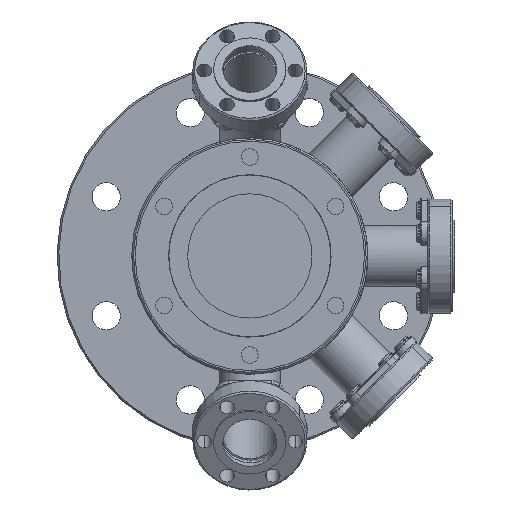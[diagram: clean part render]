
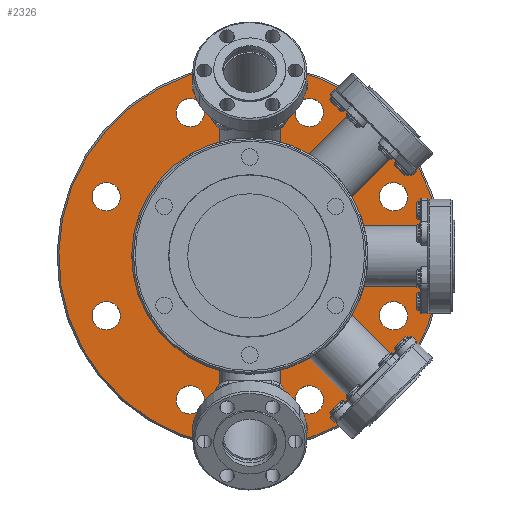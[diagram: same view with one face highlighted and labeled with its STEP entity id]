
A CAD part, top view. The second image highlights one B-rep face of the part: STEP entity #2326.
In plain terms, the highlighted planar face has unit normal (0, 0, 1) as drawn and (1, 0, 0) by its records, which use the part's own axes.
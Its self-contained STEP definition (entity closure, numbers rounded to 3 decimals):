
#2128=AXIS2_PLACEMENT_3D('Circle Axis2P3D',#2126,#2127,$) ;
#2145=AXIS2_PLACEMENT_3D('Circle Axis2P3D',#2143,#2144,$) ;
#2158=AXIS2_PLACEMENT_3D('Plane Axis2P3D',#2155,#2156,#2157) ;
#2162=AXIS2_PLACEMENT_3D('Circle Axis2P3D',#2160,#2161,$) ;
#2171=AXIS2_PLACEMENT_3D('Circle Axis2P3D',#2169,#2170,$) ;
#2180=AXIS2_PLACEMENT_3D('Circle Axis2P3D',#2178,#2179,$) ;
#2189=AXIS2_PLACEMENT_3D('Circle Axis2P3D',#2187,#2188,$) ;
#2202=AXIS2_PLACEMENT_3D('Circle Axis2P3D',#2200,#2201,$) ;
#2211=AXIS2_PLACEMENT_3D('Circle Axis2P3D',#2209,#2210,$) ;
#2220=AXIS2_PLACEMENT_3D('Circle Axis2P3D',#2218,#2219,$) ;
#2229=AXIS2_PLACEMENT_3D('Circle Axis2P3D',#2227,#2228,$) ;
#2238=AXIS2_PLACEMENT_3D('Circle Axis2P3D',#2236,#2237,$) ;
#2247=AXIS2_PLACEMENT_3D('Circle Axis2P3D',#2245,#2246,$) ;
#2256=AXIS2_PLACEMENT_3D('Circle Axis2P3D',#2254,#2255,$) ;
#2265=AXIS2_PLACEMENT_3D('Circle Axis2P3D',#2263,#2264,$) ;
#2274=AXIS2_PLACEMENT_3D('Circle Axis2P3D',#2272,#2273,$) ;
#2283=AXIS2_PLACEMENT_3D('Circle Axis2P3D',#2281,#2282,$) ;
#2292=AXIS2_PLACEMENT_3D('Circle Axis2P3D',#2290,#2291,$) ;
#2301=AXIS2_PLACEMENT_3D('Circle Axis2P3D',#2299,#2300,$) ;
#2310=AXIS2_PLACEMENT_3D('Circle Axis2P3D',#2308,#2309,$) ;
#2319=AXIS2_PLACEMENT_3D('Circle Axis2P3D',#2317,#2318,$) ;
#2107=CARTESIAN_POINT('Vertex',(17.,30.715,16.78)) ;
#2123=CARTESIAN_POINT('Vertex',(17.,-30.715,-16.78)) ;
#2126=CARTESIAN_POINT('Axis2P3D Location',(17.,0.,0.)) ;
#2143=CARTESIAN_POINT('Axis2P3D Location',(17.,0.,0.)) ;
#2155=CARTESIAN_POINT('Axis2P3D Location',(17.,35.,0.)) ;
#2160=CARTESIAN_POINT('Axis2P3D Location',(17.,0.,0.)) ;
#2164=CARTESIAN_POINT('Vertex',(17.,-49.715,-27.159)) ;
#2166=CARTESIAN_POINT('Vertex',(17.,49.715,27.159)) ;
#2169=CARTESIAN_POINT('Axis2P3D Location',(17.,0.,0.)) ;
#2178=CARTESIAN_POINT('Axis2P3D Location',(17.,-42.591,-17.642)) ;
#2182=CARTESIAN_POINT('Vertex',(17.,-38.905,-15.628)) ;
#2184=CARTESIAN_POINT('Vertex',(17.,-46.277,-19.655)) ;
#2187=CARTESIAN_POINT('Axis2P3D Location',(17.,-42.591,-17.642)) ;
#2200=CARTESIAN_POINT('Axis2P3D Location',(17.,-17.642,-42.591)) ;
#2204=CARTESIAN_POINT('Vertex',(17.,-21.328,-44.604)) ;
#2206=CARTESIAN_POINT('Vertex',(17.,-13.956,-40.577)) ;
#2209=CARTESIAN_POINT('Axis2P3D Location',(17.,-17.642,-42.591)) ;
#2218=CARTESIAN_POINT('Axis2P3D Location',(17.,17.642,-42.591)) ;
#2222=CARTESIAN_POINT('Vertex',(17.,13.956,-44.604)) ;
#2224=CARTESIAN_POINT('Vertex',(17.,21.328,-40.577)) ;
#2227=CARTESIAN_POINT('Axis2P3D Location',(17.,17.642,-42.591)) ;
#2236=CARTESIAN_POINT('Axis2P3D Location',(17.,42.591,-17.642)) ;
#2240=CARTESIAN_POINT('Vertex',(17.,38.905,-19.655)) ;
#2242=CARTESIAN_POINT('Vertex',(17.,46.277,-15.628)) ;
#2245=CARTESIAN_POINT('Axis2P3D Location',(17.,42.591,-17.642)) ;
#2254=CARTESIAN_POINT('Axis2P3D Location',(17.,42.591,17.642)) ;
#2258=CARTESIAN_POINT('Vertex',(17.,38.905,15.628)) ;
#2260=CARTESIAN_POINT('Vertex',(17.,46.277,19.655)) ;
#2263=CARTESIAN_POINT('Axis2P3D Location',(17.,42.591,17.642)) ;
#2272=CARTESIAN_POINT('Axis2P3D Location',(17.,17.642,42.591)) ;
#2276=CARTESIAN_POINT('Vertex',(17.,13.956,40.577)) ;
#2278=CARTESIAN_POINT('Vertex',(17.,21.328,44.604)) ;
#2281=CARTESIAN_POINT('Axis2P3D Location',(17.,17.642,42.591)) ;
#2290=CARTESIAN_POINT('Axis2P3D Location',(17.,-17.642,42.591)) ;
#2294=CARTESIAN_POINT('Vertex',(17.,-21.328,40.577)) ;
#2296=CARTESIAN_POINT('Vertex',(17.,-13.956,44.604)) ;
#2299=CARTESIAN_POINT('Axis2P3D Location',(17.,-17.642,42.591)) ;
#2308=CARTESIAN_POINT('Axis2P3D Location',(17.,-42.591,17.642)) ;
#2312=CARTESIAN_POINT('Vertex',(17.,-46.277,15.628)) ;
#2314=CARTESIAN_POINT('Vertex',(17.,-38.905,19.655)) ;
#2317=CARTESIAN_POINT('Axis2P3D Location',(17.,-42.591,17.642)) ;
#2127=DIRECTION('Axis2P3D Direction',(1.,0.,0.)) ;
#2144=DIRECTION('Axis2P3D Direction',(1.,0.,0.)) ;
#2156=DIRECTION('Axis2P3D Direction',(1.,0.,0.)) ;
#2157=DIRECTION('Axis2P3D XDirection',(0.,1.,0.)) ;
#2161=DIRECTION('Axis2P3D Direction',(1.,0.,0.)) ;
#2170=DIRECTION('Axis2P3D Direction',(1.,0.,0.)) ;
#2179=DIRECTION('Axis2P3D Direction',(1.,0.,0.)) ;
#2188=DIRECTION('Axis2P3D Direction',(1.,0.,0.)) ;
#2201=DIRECTION('Axis2P3D Direction',(1.,0.,0.)) ;
#2210=DIRECTION('Axis2P3D Direction',(1.,0.,0.)) ;
#2219=DIRECTION('Axis2P3D Direction',(1.,0.,0.)) ;
#2228=DIRECTION('Axis2P3D Direction',(1.,0.,0.)) ;
#2237=DIRECTION('Axis2P3D Direction',(1.,0.,0.)) ;
#2246=DIRECTION('Axis2P3D Direction',(1.,0.,0.)) ;
#2255=DIRECTION('Axis2P3D Direction',(1.,0.,0.)) ;
#2264=DIRECTION('Axis2P3D Direction',(1.,0.,0.)) ;
#2273=DIRECTION('Axis2P3D Direction',(1.,0.,0.)) ;
#2282=DIRECTION('Axis2P3D Direction',(1.,0.,0.)) ;
#2291=DIRECTION('Axis2P3D Direction',(1.,0.,0.)) ;
#2300=DIRECTION('Axis2P3D Direction',(1.,0.,0.)) ;
#2309=DIRECTION('Axis2P3D Direction',(1.,0.,0.)) ;
#2318=DIRECTION('Axis2P3D Direction',(1.,0.,0.)) ;
#2175=ORIENTED_EDGE('',*,*,#2168,.T.) ;
#2176=ORIENTED_EDGE('',*,*,#2173,.T.) ;
#2193=ORIENTED_EDGE('',*,*,#2186,.F.) ;
#2194=ORIENTED_EDGE('',*,*,#2191,.F.) ;
#2197=ORIENTED_EDGE('',*,*,#2147,.F.) ;
#2198=ORIENTED_EDGE('',*,*,#2130,.F.) ;
#2215=ORIENTED_EDGE('',*,*,#2208,.F.) ;
#2216=ORIENTED_EDGE('',*,*,#2213,.F.) ;
#2233=ORIENTED_EDGE('',*,*,#2226,.F.) ;
#2234=ORIENTED_EDGE('',*,*,#2231,.F.) ;
#2251=ORIENTED_EDGE('',*,*,#2244,.F.) ;
#2252=ORIENTED_EDGE('',*,*,#2249,.F.) ;
#2269=ORIENTED_EDGE('',*,*,#2262,.F.) ;
#2270=ORIENTED_EDGE('',*,*,#2267,.F.) ;
#2287=ORIENTED_EDGE('',*,*,#2280,.F.) ;
#2288=ORIENTED_EDGE('',*,*,#2285,.F.) ;
#2305=ORIENTED_EDGE('',*,*,#2298,.F.) ;
#2306=ORIENTED_EDGE('',*,*,#2303,.F.) ;
#2323=ORIENTED_EDGE('',*,*,#2316,.F.) ;
#2324=ORIENTED_EDGE('',*,*,#2321,.F.) ;
#2195=FACE_BOUND('',#2192,.T.) ;
#2199=FACE_BOUND('',#2196,.T.) ;
#2217=FACE_BOUND('',#2214,.T.) ;
#2235=FACE_BOUND('',#2232,.T.) ;
#2253=FACE_BOUND('',#2250,.T.) ;
#2271=FACE_BOUND('',#2268,.T.) ;
#2289=FACE_BOUND('',#2286,.T.) ;
#2307=FACE_BOUND('',#2304,.T.) ;
#2325=FACE_BOUND('',#2322,.T.) ;
#2326=ADVANCED_FACE('Hauptk\X2\00F6\X0\rper',(#2177,#2195,#2199,#2217,#2235,#2253,#2271,#2289,#2307,#2325),#2159,.T.) ;
#2129=CIRCLE('generated circle',#2128,35.) ;
#2146=CIRCLE('generated circle',#2145,35.) ;
#2163=CIRCLE('generated circle',#2162,56.65) ;
#2172=CIRCLE('generated circle',#2171,56.65) ;
#2181=CIRCLE('generated circle',#2180,4.2) ;
#2190=CIRCLE('generated circle',#2189,4.2) ;
#2203=CIRCLE('generated circle',#2202,4.2) ;
#2212=CIRCLE('generated circle',#2211,4.2) ;
#2221=CIRCLE('generated circle',#2220,4.2) ;
#2230=CIRCLE('generated circle',#2229,4.2) ;
#2239=CIRCLE('generated circle',#2238,4.2) ;
#2248=CIRCLE('generated circle',#2247,4.2) ;
#2257=CIRCLE('generated circle',#2256,4.2) ;
#2266=CIRCLE('generated circle',#2265,4.2) ;
#2275=CIRCLE('generated circle',#2274,4.2) ;
#2284=CIRCLE('generated circle',#2283,4.2) ;
#2293=CIRCLE('generated circle',#2292,4.2) ;
#2302=CIRCLE('generated circle',#2301,4.2) ;
#2311=CIRCLE('generated circle',#2310,4.2) ;
#2320=CIRCLE('generated circle',#2319,4.2) ;
#2130=EDGE_CURVE('',#2124,#2108,#2129,.T.) ;
#2147=EDGE_CURVE('',#2108,#2124,#2146,.T.) ;
#2168=EDGE_CURVE('',#2165,#2167,#2163,.T.) ;
#2173=EDGE_CURVE('',#2167,#2165,#2172,.T.) ;
#2186=EDGE_CURVE('',#2183,#2185,#2181,.T.) ;
#2191=EDGE_CURVE('',#2185,#2183,#2190,.T.) ;
#2208=EDGE_CURVE('',#2205,#2207,#2203,.T.) ;
#2213=EDGE_CURVE('',#2207,#2205,#2212,.T.) ;
#2226=EDGE_CURVE('',#2223,#2225,#2221,.T.) ;
#2231=EDGE_CURVE('',#2225,#2223,#2230,.T.) ;
#2244=EDGE_CURVE('',#2241,#2243,#2239,.T.) ;
#2249=EDGE_CURVE('',#2243,#2241,#2248,.T.) ;
#2262=EDGE_CURVE('',#2259,#2261,#2257,.T.) ;
#2267=EDGE_CURVE('',#2261,#2259,#2266,.T.) ;
#2280=EDGE_CURVE('',#2277,#2279,#2275,.T.) ;
#2285=EDGE_CURVE('',#2279,#2277,#2284,.T.) ;
#2298=EDGE_CURVE('',#2295,#2297,#2293,.T.) ;
#2303=EDGE_CURVE('',#2297,#2295,#2302,.T.) ;
#2316=EDGE_CURVE('',#2313,#2315,#2311,.T.) ;
#2321=EDGE_CURVE('',#2315,#2313,#2320,.T.) ;
#2174=EDGE_LOOP('',(#2175,#2176)) ;
#2192=EDGE_LOOP('',(#2193,#2194)) ;
#2196=EDGE_LOOP('',(#2197,#2198)) ;
#2214=EDGE_LOOP('',(#2215,#2216)) ;
#2232=EDGE_LOOP('',(#2233,#2234)) ;
#2250=EDGE_LOOP('',(#2251,#2252)) ;
#2268=EDGE_LOOP('',(#2269,#2270)) ;
#2286=EDGE_LOOP('',(#2287,#2288)) ;
#2304=EDGE_LOOP('',(#2305,#2306)) ;
#2322=EDGE_LOOP('',(#2323,#2324)) ;
#2177=FACE_OUTER_BOUND('',#2174,.T.) ;
#2159=PLANE('',#2158) ;
#2108=VERTEX_POINT('',#2107) ;
#2124=VERTEX_POINT('',#2123) ;
#2165=VERTEX_POINT('',#2164) ;
#2167=VERTEX_POINT('',#2166) ;
#2183=VERTEX_POINT('',#2182) ;
#2185=VERTEX_POINT('',#2184) ;
#2205=VERTEX_POINT('',#2204) ;
#2207=VERTEX_POINT('',#2206) ;
#2223=VERTEX_POINT('',#2222) ;
#2225=VERTEX_POINT('',#2224) ;
#2241=VERTEX_POINT('',#2240) ;
#2243=VERTEX_POINT('',#2242) ;
#2259=VERTEX_POINT('',#2258) ;
#2261=VERTEX_POINT('',#2260) ;
#2277=VERTEX_POINT('',#2276) ;
#2279=VERTEX_POINT('',#2278) ;
#2295=VERTEX_POINT('',#2294) ;
#2297=VERTEX_POINT('',#2296) ;
#2313=VERTEX_POINT('',#2312) ;
#2315=VERTEX_POINT('',#2314) ;
